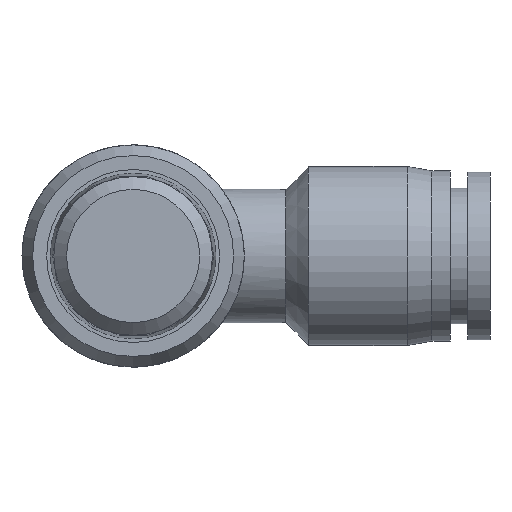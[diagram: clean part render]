
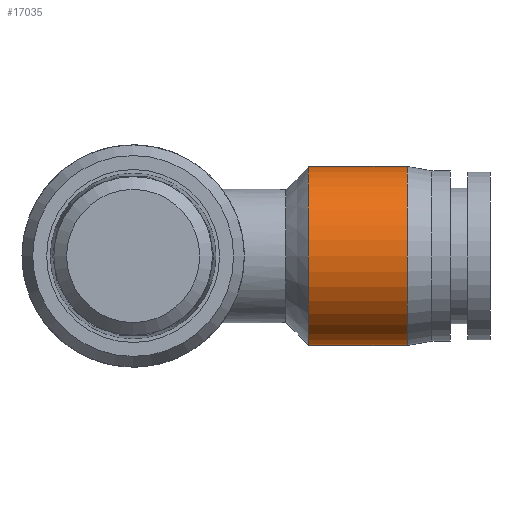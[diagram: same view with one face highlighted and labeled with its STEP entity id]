
A CAD part, front view. The second image highlights one B-rep face of the part: STEP entity #17035.
In plain terms, the highlighted cylindrical face has radius 7.25 mm (diameter 14.5 mm), a full revolution.
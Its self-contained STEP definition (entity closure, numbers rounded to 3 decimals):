
#17001=CARTESIAN_POINT('',(14.2,7.25,0.0));
#17002=VERTEX_POINT('',#17001);
#17003=CARTESIAN_POINT('',(14.2,0.0,0.0));
#17004=DIRECTION('',(1.0,0.0,0.0));
#17005=DIRECTION('',(0.0,1.0,0.0));
#17006=AXIS2_PLACEMENT_3D('',#17003,#17004,#17005);
#17007=CIRCLE('',#17006,7.25);
#17008=EDGE_CURVE('',#17002,#17002,#17007,.T.);
#17016=CARTESIAN_POINT('',(18.2,0.0,0.0));
#17017=DIRECTION('',(1.0,0.0,0.0));
#17018=DIRECTION('',(0.0,1.0,0.0));
#17019=AXIS2_PLACEMENT_3D('',#17016,#17017,#17018);
#17020=CYLINDRICAL_SURFACE('',#17019,7.25);
#17021=CARTESIAN_POINT('',(22.2,7.25,0.0));
#17022=VERTEX_POINT('',#17021);
#17023=CARTESIAN_POINT('',(22.2,0.0,0.0));
#17024=DIRECTION('',(1.0,0.0,0.0));
#17025=DIRECTION('',(0.0,1.0,0.0));
#17026=AXIS2_PLACEMENT_3D('',#17023,#17024,#17025);
#17027=CIRCLE('',#17026,7.25);
#17028=EDGE_CURVE('',#17022,#17022,#17027,.T.);
#17029=ORIENTED_EDGE('',*,*,#17028,.F.);
#17030=EDGE_LOOP('',(#17029));
#17031=FACE_OUTER_BOUND('',#17030,.T.);
#17032=ORIENTED_EDGE('',*,*,#17008,.T.);
#17033=EDGE_LOOP('',(#17032));
#17034=FACE_BOUND('',#17033,.T.);
#17035=ADVANCED_FACE('',(#17031,#17034),#17020,.T.);
